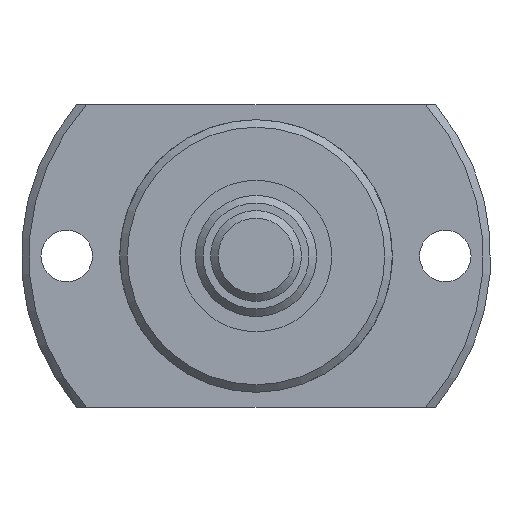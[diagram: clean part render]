
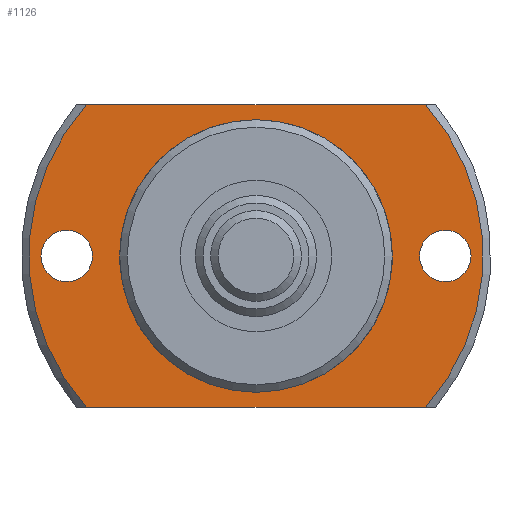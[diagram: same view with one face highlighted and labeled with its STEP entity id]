
A CAD part, left-side view. The second image highlights one B-rep face of the part: STEP entity #1126.
In plain terms, the highlighted planar face has unit normal (-1, 0, 0).
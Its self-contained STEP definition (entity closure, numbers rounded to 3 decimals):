
#115=CIRCLE('',#1251,8.85);
#118=CIRCLE('',#1255,15.);
#124=CIRCLE('',#1266,1.7);
#125=CIRCLE('',#1267,1.7);
#126=CIRCLE('',#1268,15.);
#260=ORIENTED_EDGE('',*,*,#523,.T.);
#261=ORIENTED_EDGE('',*,*,#524,.T.);
#262=ORIENTED_EDGE('',*,*,#512,.F.);
#263=ORIENTED_EDGE('',*,*,#525,.T.);
#264=ORIENTED_EDGE('',*,*,#526,.F.);
#265=ORIENTED_EDGE('',*,*,#527,.T.);
#266=ORIENTED_EDGE('',*,*,#506,.T.);
#506=EDGE_CURVE('',#648,#648,#115,.T.);
#512=EDGE_CURVE('',#653,#654,#118,.T.);
#523=EDGE_CURVE('',#663,#663,#124,.T.);
#524=EDGE_CURVE('',#664,#664,#125,.T.);
#525=EDGE_CURVE('',#653,#665,#738,.T.);
#526=EDGE_CURVE('',#666,#665,#126,.T.);
#527=EDGE_CURVE('',#666,#654,#739,.T.);
#648=VERTEX_POINT('',#1836);
#653=VERTEX_POINT('',#1850);
#654=VERTEX_POINT('',#1852);
#663=VERTEX_POINT('',#1886);
#664=VERTEX_POINT('',#1888);
#665=VERTEX_POINT('',#1890);
#666=VERTEX_POINT('',#1892);
#738=LINE('',#1889,#798);
#739=LINE('',#1893,#799);
#798=VECTOR('',#1515,1000.);
#799=VECTOR('',#1518,1000.);
#884=EDGE_LOOP('',(#260));
#885=EDGE_LOOP('',(#261));
#886=EDGE_LOOP('',(#262,#263,#264,#265));
#887=EDGE_LOOP('',(#266));
#996=FACE_BOUND('',#884,.T.);
#997=FACE_BOUND('',#885,.T.);
#998=FACE_BOUND('',#886,.T.);
#999=FACE_BOUND('',#887,.T.);
#1071=PLANE('',#1265);
#1126=ADVANCED_FACE('',(#996,#997,#998,#999),#1071,.F.);
#1251=AXIS2_PLACEMENT_3D('',#1835,#1477,#1478);
#1255=AXIS2_PLACEMENT_3D('',#1851,#1487,#1488);
#1265=AXIS2_PLACEMENT_3D('',#1884,#1509,#1510);
#1266=AXIS2_PLACEMENT_3D('',#1885,#1511,#1512);
#1267=AXIS2_PLACEMENT_3D('',#1887,#1513,#1514);
#1268=AXIS2_PLACEMENT_3D('',#1891,#1516,#1517);
#1477=DIRECTION('',(1.,0.,0.));
#1478=DIRECTION('',(0.,0.,-1.));
#1487=DIRECTION('',(1.,0.,0.));
#1488=DIRECTION('',(0.,0.,-1.));
#1509=DIRECTION('',(1.,0.,0.));
#1510=DIRECTION('',(0.,0.,-1.));
#1511=DIRECTION('',(1.,0.,0.));
#1512=DIRECTION('',(0.,0.,-1.));
#1513=DIRECTION('',(1.,0.,0.));
#1514=DIRECTION('',(0.,0.,-1.));
#1515=DIRECTION('',(0.,-1.,0.));
#1516=DIRECTION('',(1.,0.,0.));
#1517=DIRECTION('',(0.,0.,-1.));
#1518=DIRECTION('',(0.,1.,0.));
#1835=CARTESIAN_POINT('',(24.,0.,0.));
#1836=CARTESIAN_POINT('',(24.,0.,-8.85));
#1850=CARTESIAN_POINT('',(24.,11.18,-10.));
#1851=CARTESIAN_POINT('',(24.,0.,0.));
#1852=CARTESIAN_POINT('',(24.,11.18,10.));
#1884=CARTESIAN_POINT('',(24.,8.85,0.));
#1885=CARTESIAN_POINT('',(24.,-12.5,0.));
#1886=CARTESIAN_POINT('',(24.,-12.5,-1.7));
#1887=CARTESIAN_POINT('',(24.,12.5,0.));
#1888=CARTESIAN_POINT('',(24.,12.5,-1.7));
#1889=CARTESIAN_POINT('',(24.,8.85,-10.));
#1890=CARTESIAN_POINT('',(24.,-11.18,-10.));
#1891=CARTESIAN_POINT('',(24.,0.,0.));
#1892=CARTESIAN_POINT('',(24.,-11.18,10.));
#1893=CARTESIAN_POINT('',(24.,8.85,10.));
